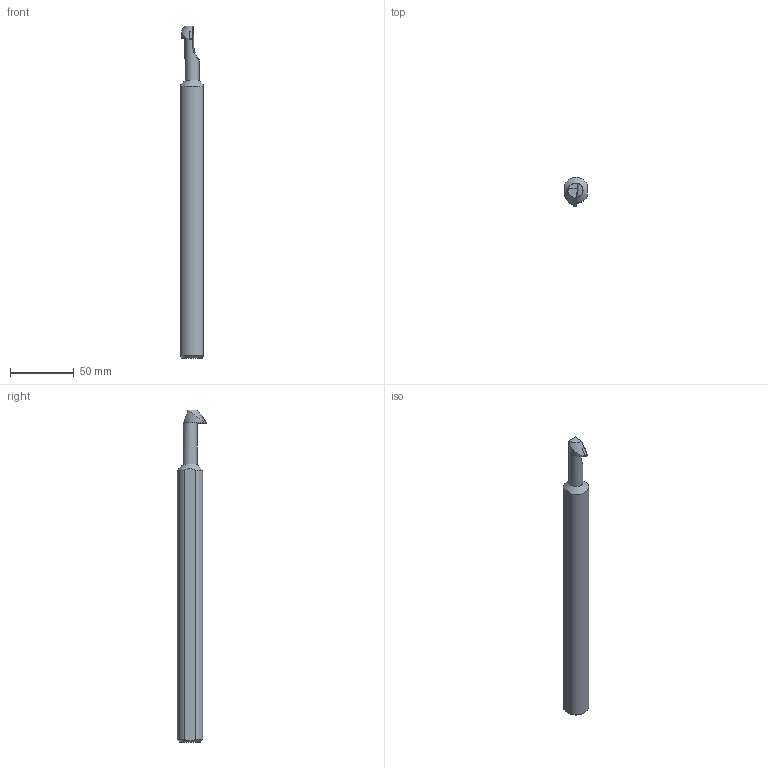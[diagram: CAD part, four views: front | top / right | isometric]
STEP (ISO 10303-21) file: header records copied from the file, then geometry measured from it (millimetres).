
FILE_DESCRIPTION(/* description */ (''),/* implementation_level */ '2;1');
FILE_NAME(/* name */ 'S20S-SDZCR-07-HAAS.stp',/* time_stamp */ '2021-09-29T11:18:58+09:00',/* author */ (''),/* organization */ (''),/* preprocessor_version */ 'ST-DEVELOPER v15',/* originating_system */ 'SIEMENS PLM Software NX 8.5',/* authorisation */ '');
FILE_SCHEMA (('AP203_CONFIGURATION_CONTROLLED_3D_DESIGN_OF_MECHANICAL_PARTS_AND_ASSEMBLIES_MIM_LF { 1 0 10303 403 2 1 2}'));
Length unit declared in the file: millimetre
Products named in the file (1): user6E2824B8692s
Bounding box: 18 x 22.96 x 260.6 mm (x, y, z)
Volume: 68909 mm3; surface area: 15559.1 mm2
Topology: 2 solids, 2 shells, 24 faces, 59 edges, 39 vertices
Faces by surface type: plane 12, cone 6, cylinder 5, bspline 1
Full cylindrical faces by diameter (mm): 4 x1, 11 x1
Entity records: 826 total; most frequent: CARTESIAN_POINT 210, DIRECTION 106, ORIENTED_EDGE 102, EDGE_CURVE 51, AXIS2_PLACEMENT_3D 41, VERTEX_POINT 35, EDGE_LOOP 30, ADVANCED_FACE 24
